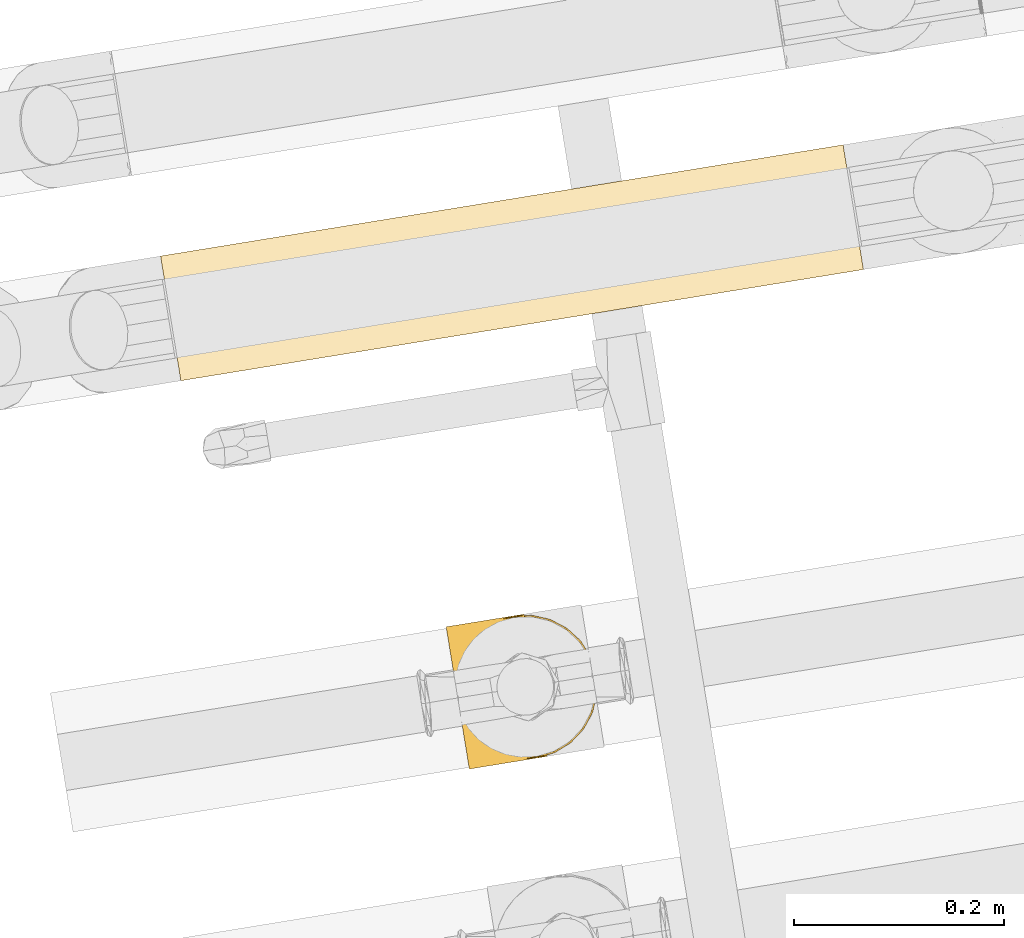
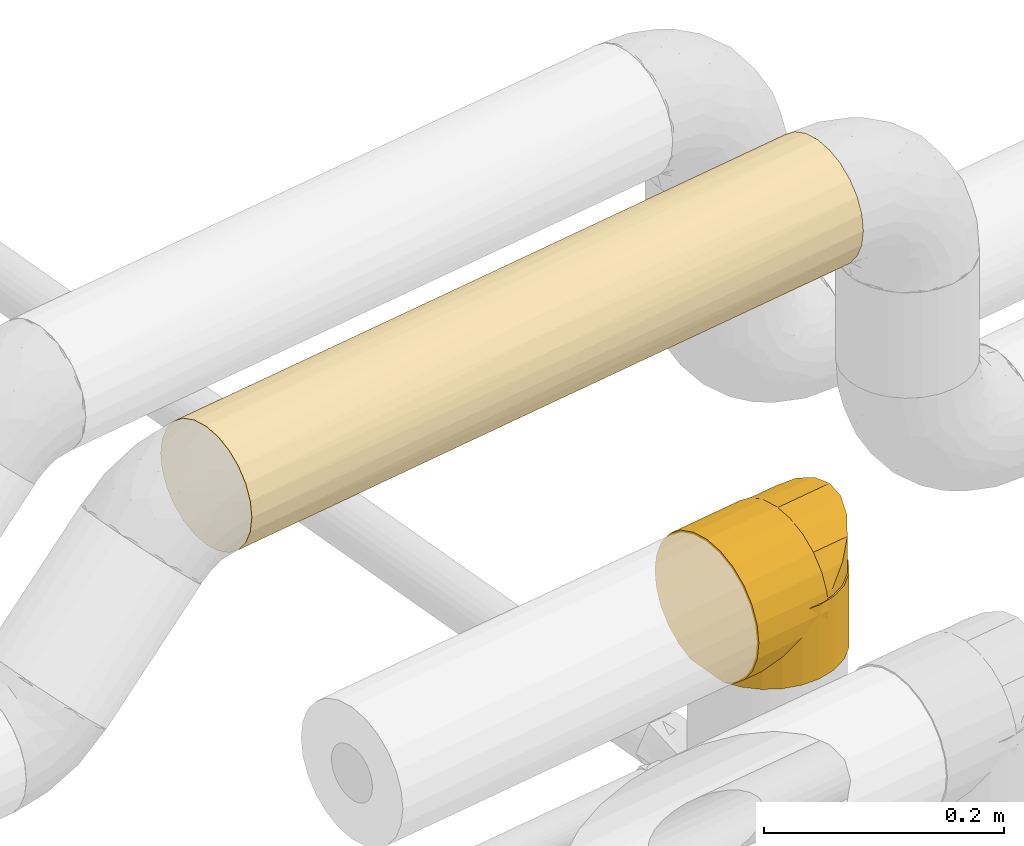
# One storey, part 8 of 56: 2 coverings.
"""IFC2X3 building model written with IfcOpenShell, lengths in millimetres."""

from ifc_helpers import new_model, entity, si_unit, converted_unit, derived_unit, direction, frame, origin, origin_with_axes, place, context, subcontext, project, spatial, faceted_brep, material, type_object, element, save


model = new_model("IFC2X3")

# Units and contexts
model_context = context("Model", 3, precision=0.01, world=origin(), true_north=direction((6.12323399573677e-17, 1.0)))
plan_context = context("Plan", 3, precision=1e-05, world=origin_with_axes())
body_context = subcontext(model_context, "Body", "Model", "MODEL_VIEW")
ifc_project = project(units=[converted_unit("PLANEANGLEUNIT", "DEGREE", entity("IfcPositiveLengthMeasure", 0.0174532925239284), si_unit("PLANEANGLEUNIT", "RADIAN"), dimensions=[0, 0, 0, 0, 0, 0, 0]), si_unit("AREAUNIT", "SQUARE_METRE"), si_unit("LENGTHUNIT", "METRE", prefix="MILLI"), si_unit("MASSUNIT", "GRAM", prefix="KILO"), si_unit("POWERUNIT", "WATT"), si_unit("PRESSUREUNIT", "PASCAL", prefix="KILO"), si_unit("FORCEUNIT", "NEWTON", prefix="KILO"), si_unit("ELECTRICVOLTAGEUNIT", "VOLT"), si_unit("ELECTRICCURRENTUNIT", "AMPERE"), si_unit("THERMODYNAMICTEMPERATUREUNIT", "DEGREE_CELSIUS"), si_unit("TIMEUNIT", "SECOND"), si_unit("VOLUMEUNIT", "CUBIC_METRE"), derived_unit("LINEARVELOCITYUNIT", [(si_unit("LENGTHUNIT", "METRE"), 1), (si_unit("TIMEUNIT", "SECOND"), -1)]), derived_unit("VOLUMETRICFLOWRATEUNIT", [(si_unit("VOLUMEUNIT", "CUBIC_METRE"), 1), (si_unit("TIMEUNIT", "SECOND"), -1)]), derived_unit("THERMALTRANSMITTANCEUNIT", [(si_unit("POWERUNIT", "WATT"), 1), (si_unit("THERMODYNAMICTEMPERATUREUNIT", "KELVIN"), -1), (si_unit("AREAUNIT", "SQUARE_METRE"), -1)]), derived_unit("SOUNDPRESSUREUNIT", [(si_unit("PRESSUREUNIT", "PASCAL"), 1)])], contexts=[model_context, plan_context])

# Site, building, storey
site_placement = place(None, frame((-3.09682673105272e-06, 1.93776733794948e-05, 0.0), z_axis=(0.0, 0.0, 1.0), x_axis=(-0.160806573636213, 0.986985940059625, 0.0)))
site = spatial("IfcSite", under=ifc_project, at=site_placement, Name="Default", CompositionType="ELEMENT")
building_placement = place(site_placement, frame((0.0, 0.0, 0.0), z_axis=(0.0, 0.0, 1.0), x_axis=(1.0, -2.77555756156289e-17, 0.0)))
building = spatial("IfcBuilding", under=site, at=building_placement, Name="Bygning (endres i Project Information)", CompositionType="ELEMENT")
storey_placement = place(building_placement, frame((0.0, 0.0, 51360.0000000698), z_axis=(0.0, 0.0, 1.0), x_axis=(1.0, -2.77555756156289e-17, 0.0)))
storey = spatial("IfcBuildingStorey", under=building, at=storey_placement, Name="H01-Nivå D+0,36", CompositionType="ELEMENT", Elevation=51360.0000000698)

# Coverings
ifc_material_1 = material(Name="3700.001 Retur")
covering_type_1 = type_object("IfcCoveringType", Name="Pipe Insulation:GLAVA avløpsisol. slange økende 19mm (15,5-25,0)", PredefinedType="INSULATION")
covering_1_placement = place(storey_placement, frame((1011626.7223714, -395574.315734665, 3538.35546539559), z_axis=(0.0, 0.0, 1.0), x_axis=(1.0, -2.77555756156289e-17, 0.0)))
element("IfcCovering", 1, at=covering_1_placement, inside=storey, type_object=covering_type_1, material=ifc_material_1, Name="Pipe Insulation:GLAVA avløpsisol. slange økende 19mm (15,5-25,0)", ObjectType="Pipe Insulation:GLAVA avløpsisol. slange økende 19mm (15,5-25,0)", PredefinedType="INSULATION", context=body_context, shape_type="Brep", body=[
    faceted_brep([(46.103188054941, 0.0, 3.64142634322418), (61.6452715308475, 0.0, 1.59527223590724), (77.1873550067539, 0.0, 3.64142634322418), (91.6702711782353, 0.0, 9.64044664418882), (104.107033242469, 0.0, 19.1835098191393), (113.650096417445, 0.0, 31.6202718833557), (119.649116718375, 0.0, 46.103188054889), (121.695270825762, 0.0, 61.6452715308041), (119.649116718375, 0.0, 77.1873550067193), (113.650096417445, 0.0, 91.6702711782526), (104.107033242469, 0.0, 104.107033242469), (91.6702711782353, 0.0, 113.650096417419), (77.1873550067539, 0.0, 119.649116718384), (61.6452715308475, 0.0, 121.695270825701), (46.103188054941, 0.0, 119.649116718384), (31.6202718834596, 0.0, 113.650096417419), (19.1835098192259, 0.0, 104.107033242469), (9.64044664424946, 0.0, 91.6702711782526), (3.64142634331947, 0.0, 77.1873550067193), (1.59527223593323, 0.0, 61.6452715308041), (3.64142634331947, 0.0, 46.103188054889), (9.64044664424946, 0.0, 31.6202718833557), (19.1835098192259, 0.0, 19.1835098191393), (31.6202718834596, 0.0, 9.64044664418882), (31.6202718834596, 657.356818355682, 9.64044664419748), (19.1835098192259, 657.356818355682, 19.183509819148), (9.64044664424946, 657.356818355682, 31.6202718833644), (3.64142634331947, 657.356818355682, 46.1031880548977), (1.59527223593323, 657.356818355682, 61.6452715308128), (3.64142634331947, 657.356818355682, 77.1873550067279), (9.64044664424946, 657.356818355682, 91.6702711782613), (19.1835098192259, 657.356818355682, 104.107033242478), (31.6202718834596, 657.356818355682, 113.650096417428), (46.103188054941, 657.356818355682, 119.649116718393), (61.6452715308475, 657.356818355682, 121.69527082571), (77.1873550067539, 657.356818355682, 119.649116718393), (91.6702711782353, 657.356818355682, 113.650096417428), (104.107033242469, 657.356818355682, 104.107033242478), (113.650096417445, 657.356818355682, 91.6702711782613), (119.649116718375, 657.356818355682, 77.1873550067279), (121.695270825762, 657.356818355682, 61.6452715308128), (119.649116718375, 657.356818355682, 46.1031880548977), (113.650096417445, 657.356818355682, 31.6202718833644), (104.107033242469, 657.356818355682, 19.183509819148), (91.6702711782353, 657.356818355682, 9.64044664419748), (77.1873550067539, 657.356818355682, 3.64142634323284), (61.6452715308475, 657.356818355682, 1.5952722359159), (46.103188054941, 657.356818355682, 3.64142634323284), (14.004404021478, 328.678408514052, 25.08914812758), (6.16630635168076, 328.678411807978, 38.6651314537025), (50.128920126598, 299.904192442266, 2.70991655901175), (61.6452715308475, 386.777987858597, 1.59527223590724), (61.6452715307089, 270.579537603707, 1.59527223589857), (2.7099166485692, 299.904202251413, 50.1289196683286), (1.59527223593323, 386.777875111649, 61.6452715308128), (25.0891481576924, 328.678408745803, 14.0044039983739), (38.6651317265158, 328.678409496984, 6.16630623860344), (84.6254113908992, 328.678409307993, 6.1663062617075), (73.161622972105, 357.452625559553, 2.70991656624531), (120.580626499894, 299.904192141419, 50.1289201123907), (117.12423680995, 328.678409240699, 38.6651316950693), (98.2013949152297, 328.678409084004, 14.0044040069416), (109.28613905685, 328.678409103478, 25.0891481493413), (121.695270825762, 386.777884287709, 61.6452715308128), (121.695270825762, 270.578934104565, 61.6452715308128), (117.124236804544, 328.67840921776, 84.625411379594), (120.58062649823, 357.452626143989, 73.1616229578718), (73.1616229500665, 299.904191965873, 120.580626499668), (84.625411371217, 328.678409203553, 117.124236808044), (109.286139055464, 328.678409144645, 98.2013949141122), (98.201394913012, 328.67840914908, 109.286139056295), (61.6452715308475, 386.777884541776, 121.695270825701), (61.6452715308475, 270.578933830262, 121.695270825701), (38.665131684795, 328.67840919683, 117.124236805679), (50.128920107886, 357.452626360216, 120.580626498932), (2.70991656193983, 299.904191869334, 73.1616229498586), (6.16630625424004, 328.678409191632, 84.6254113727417), (25.0891481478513, 328.678409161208, 109.286139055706), (14.0044040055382, 328.678409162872, 98.2013949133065)], [[[0, 1, 2, 3, 4, 5, 6, 7, 8, 9, 10, 11, 12, 13, 14, 15, 16, 17, 18, 19, 20, 21, 22, 23]], [[24, 25, 26, 27, 28, 29, 30, 31, 32, 33, 34, 35, 36, 37, 38, 39, 40, 41, 42, 43, 44, 45, 46, 47]], [[48, 49, 26]], [[50, 46, 51, 52, 1]], [[27, 26, 49]], [[27, 49, 53]], [[49, 20, 53]], [[49, 48, 21]], [[25, 48, 26]], [[54, 28, 53, 19]], [[22, 21, 48]], [[28, 27, 53]], [[55, 48, 25]], [[20, 49, 21]], [[56, 24, 47]], [[19, 53, 20]], [[24, 55, 25]], [[1, 0, 50]], [[55, 23, 22]], [[56, 55, 24]], [[50, 0, 56]], [[56, 23, 55]], [[48, 55, 22]], [[23, 56, 0]], [[47, 50, 56]], [[46, 50, 47]], [[57, 58, 45]], [[41, 59, 60]], [[58, 1, 52, 51, 46]], [[57, 45, 44]], [[58, 46, 45]], [[2, 57, 3]], [[1, 58, 2]], [[61, 4, 3]], [[61, 57, 44]], [[62, 61, 43]], [[59, 40, 63, 64, 7]], [[60, 42, 41]], [[59, 6, 60]], [[7, 6, 59]], [[62, 5, 4]], [[60, 62, 42]], [[40, 59, 41]], [[60, 5, 62]], [[61, 62, 4]], [[43, 61, 44]], [[5, 60, 6]], [[42, 62, 43]], [[2, 58, 57]], [[57, 61, 3]], [[65, 66, 39]], [[35, 67, 68]], [[66, 7, 64, 63, 40]], [[65, 39, 38]], [[66, 40, 39]], [[8, 65, 9]], [[7, 66, 8]], [[69, 10, 9]], [[69, 65, 38]], [[70, 69, 37]], [[67, 34, 71, 72, 13]], [[68, 36, 35]], [[67, 12, 68]], [[13, 12, 67]], [[70, 11, 10]], [[68, 70, 36]], [[34, 67, 35]], [[68, 11, 70]], [[69, 70, 10]], [[37, 69, 38]], [[11, 68, 12]], [[36, 70, 37]], [[8, 66, 65]], [[65, 69, 9]], [[73, 74, 33]], [[29, 75, 76]], [[74, 13, 72, 71, 34]], [[73, 33, 32]], [[74, 34, 33]], [[14, 73, 15]], [[13, 74, 14]], [[77, 16, 15]], [[77, 73, 32]], [[78, 77, 31]], [[19, 75, 28, 54]], [[76, 30, 29]], [[75, 18, 76]], [[19, 18, 75]], [[78, 17, 16]], [[76, 78, 30]], [[28, 75, 29]], [[76, 17, 78]], [[77, 78, 16]], [[31, 77, 32]], [[17, 76, 18]], [[30, 78, 31]], [[14, 74, 73]], [[73, 77, 15]]]),
])
ifc_material_2 = material(Name="3200.002 Retur")
covering_type_2 = type_object("IfcCoveringType", Name="Pipe Insulation:GLAVA Rørskål ClimPipe Alu2, isol.kl.4, 45°C", PredefinedType="INSULATION")
covering_2_placement = place(storey_placement, frame((1011218.30953621, -395263.320539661, 3533.40472776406), z_axis=(0.0, 0.0, 1.0), x_axis=(1.0, -2.77555756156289e-17, 0.0)))
element("IfcCovering", 2, at=covering_2_placement, inside=storey, type_object=covering_type_2, material=ifc_material_2, Name="Pipe Insulation:GLAVA Rørskål ClimPipe Alu2, isol.kl.4, 45°C", ObjectType="Pipe Insulation:GLAVA Rørskål ClimPipe Alu2, isol.kl.4, 45°C", PredefinedType="INSULATION", context=body_context, shape_type="Brep", body=[
    faceted_brep([(48.4793059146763, 135.095272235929, 1.5952722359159), (48.4793059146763, 135.095272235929, 76.5952722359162), (91.7112385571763, 135.095272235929, 76.5952722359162), (91.7112385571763, 135.095272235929, 1.5952722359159), (136.465971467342, 87.0416666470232, 76.5952722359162), (130.211561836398, 102.932472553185, 76.5952722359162), (120.221067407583, 116.782044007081, 76.5952722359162), (107.116057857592, 127.72956265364, 76.5952722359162), (33.074486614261, 127.72956265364, 76.5952722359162), (19.9694770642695, 116.782044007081, 76.5952722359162), (9.9789826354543, 102.932472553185, 76.5952722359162), (3.7245730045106, 87.0416666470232, 76.5952722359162), (1.59527223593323, 70.0952722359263, 76.5952722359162), (3.92935313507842, 52.366167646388, 76.5952722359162), (10.7725320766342, 35.8452722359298, 76.5952722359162), (21.658457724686, 21.6584577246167, 76.5952722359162), (35.8452722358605, 10.7725320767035, 76.5952722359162), (52.3661676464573, 3.92935313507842, 76.5952722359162), (70.0952722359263, 1.59527223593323, 76.5952722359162), (87.8243768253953, 3.92935313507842, 76.5952722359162), (104.345272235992, 10.7725320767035, 76.5952722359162), (118.532086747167, 21.6584577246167, 76.5952722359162), (129.418012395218, 35.8452722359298, 76.5952722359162), (136.261191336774, 52.366167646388, 76.5952722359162), (138.595272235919, 70.0952722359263, 76.5952722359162), (33.074486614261, 127.72956265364, 1.5952722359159), (19.9694770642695, 116.782044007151, 1.5952722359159), (9.9789826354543, 102.932472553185, 1.5952722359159), (3.7245730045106, 87.0416666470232, 1.5952722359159), (1.59527223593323, 70.0952722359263, 1.5952722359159), (3.92935313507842, 52.366167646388, 1.5952722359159), (10.7725320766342, 35.8452722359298, 1.5952722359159), (21.658457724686, 21.6584577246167, 1.5952722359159), (35.8452722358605, 10.7725320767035, 1.5952722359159), (52.3661676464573, 3.92935313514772, 1.5952722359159), (70.0952722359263, 1.59527223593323, 1.5952722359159), (87.8243768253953, 3.92935313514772, 1.5952722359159), (104.345272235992, 10.7725320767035, 1.5952722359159), (118.532086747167, 21.6584577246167, 1.5952722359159), (129.418012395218, 35.8452722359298, 1.5952722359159), (136.261191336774, 52.366167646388, 1.5952722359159), (138.595272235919, 70.0952722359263, 1.5952722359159), (136.465971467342, 87.0416666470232, 1.5952722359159), (130.211561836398, 102.932472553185, 1.5952722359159), (120.221067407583, 116.782044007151, 1.5952722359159), (107.116057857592, 127.72956265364, 1.5952722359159)], [[[0, 1, 2, 3]], [[4, 5, 6, 7, 2, 1, 8, 9, 10, 11, 12, 13, 14, 15, 16, 17, 18, 19, 20, 21, 22, 23, 24]], [[25, 26, 9, 8]], [[0, 25, 8, 1]], [[26, 27, 10, 9]], [[10, 27, 28, 11]], [[11, 28, 29, 12]], [[13, 30, 31, 14]], [[14, 31, 32, 15]], [[12, 29, 30, 13]], [[16, 33, 34, 17]], [[17, 34, 35, 18]], [[15, 32, 33, 16]], [[19, 36, 37, 20]], [[20, 37, 38, 21]], [[35, 36, 19, 18]], [[22, 39, 40, 23]], [[23, 40, 41, 24]], [[21, 38, 39, 22]], [[24, 41, 42, 4]], [[4, 42, 43, 5]], [[43, 44, 6, 5]], [[6, 44, 45, 7]], [[7, 45, 3, 2]], [[28, 27, 26, 25, 0, 3, 45, 44, 43, 42, 41, 40, 39, 38, 37, 36, 35, 34, 33, 32, 31, 30, 29]]]),
    faceted_brep([(91.7112385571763, 60.0952722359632, 1.5952722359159), (48.4793059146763, 60.0952722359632, 1.5952722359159), (48.4793059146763, 135.095272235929, 1.5952722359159), (91.7112385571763, 135.095272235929, 1.5952722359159), (136.261191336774, 60.0952722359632, 84.3243768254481), (129.418012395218, 60.0952722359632, 100.845272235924), (118.532086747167, 60.0952722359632, 115.032086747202), (104.345272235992, 60.0952722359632, 125.918012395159), (87.8243768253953, 60.0952722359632, 132.761191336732), (70.0952722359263, 60.0952722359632, 135.095272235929), (52.3661676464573, 60.0952722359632, 132.761191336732), (35.8452722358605, 60.0952722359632, 125.918012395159), (21.658457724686, 60.0952722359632, 115.032086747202), (10.7725320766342, 60.0952722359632, 100.845272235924), (3.92935313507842, 60.0952722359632, 84.3243768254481), (1.59527223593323, 60.0952722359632, 66.5952722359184), (3.7245730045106, 60.0952722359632, 49.6488778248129), (9.9789826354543, 60.0952722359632, 33.7580719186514), (19.9694770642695, 60.0952722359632, 19.9085004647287), (33.074486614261, 60.0952722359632, 8.96098181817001), (107.116057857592, 60.0952722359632, 8.96098181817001), (120.221067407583, 60.0952722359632, 19.9085004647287), (130.211561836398, 60.0952722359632, 33.7580719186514), (136.465971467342, 60.0952722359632, 49.6488778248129), (138.595272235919, 60.0952722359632, 66.5952722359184), (70.0952722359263, 135.095272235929, 135.095272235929), (52.3661676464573, 135.095272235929, 132.761191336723), (35.8452722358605, 135.095272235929, 125.918012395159), (21.658457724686, 135.095272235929, 115.032086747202), (10.7725320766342, 135.095272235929, 100.845272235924), (3.92935313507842, 135.095272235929, 84.3243768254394), (1.59527223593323, 135.095272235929, 66.5952722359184), (3.7245730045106, 135.095272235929, 49.6488778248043), (9.9789826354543, 135.095272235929, 33.7580719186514), (19.9694770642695, 135.095272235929, 19.9085004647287), (33.074486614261, 135.095272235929, 8.96098181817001), (107.116057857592, 135.095272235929, 8.96098181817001), (120.221067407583, 135.095272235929, 19.9085004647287), (130.211561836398, 135.095272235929, 33.7580719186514), (136.465971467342, 135.095272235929, 49.6488778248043), (138.595272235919, 135.095272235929, 66.5952722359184), (136.261191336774, 135.095272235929, 84.3243768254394), (129.418012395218, 135.095272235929, 100.845272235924), (118.532086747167, 135.095272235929, 115.032086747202), (104.345272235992, 135.095272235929, 125.918012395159), (87.8243768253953, 135.095272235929, 132.761191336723)], [[[0, 1, 2, 3]], [[4, 5, 6, 7, 8, 9, 10, 11, 12, 13, 14, 15, 16, 17, 18, 19, 1, 0, 20, 21, 22, 23, 24]], [[25, 26, 10, 9]], [[12, 11, 27, 28]], [[27, 11, 10, 26]], [[13, 29, 30, 14]], [[14, 30, 31, 15]], [[12, 28, 29, 13]], [[15, 31, 32, 16]], [[16, 32, 33, 17]], [[33, 34, 18, 17]], [[18, 34, 35, 19]], [[19, 35, 2, 1]], [[0, 3, 36, 20]], [[20, 36, 37, 21]], [[37, 38, 22, 21]], [[22, 38, 39, 23]], [[23, 39, 40, 24]], [[4, 41, 42, 5]], [[5, 42, 43, 6]], [[40, 41, 4, 24]], [[7, 44, 45, 8]], [[8, 45, 25, 9]], [[6, 43, 44, 7]], [[2, 35, 34, 33, 32, 31, 30, 29, 28, 27, 26, 25, 45, 44, 43, 42, 41, 40, 39, 38, 37, 36, 3]]]),
    faceted_brep([(17.0805762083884, 135.095272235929, 25.6264791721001), (6.68792000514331, 135.095272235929, 44.9502339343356), (3.09527223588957, 135.095272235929, 66.5952722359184), (5.64530789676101, 135.095272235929, 79.4151672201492), (8.19534355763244, 135.095272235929, 92.2350622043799), (15.4572307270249, 135.095272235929, 103.103244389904), (22.7191178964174, 135.095272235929, 113.971426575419), (33.5873000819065, 135.095272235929, 121.233313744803), (44.4554822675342, 135.095272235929, 128.495200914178), (57.2753772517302, 135.095272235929, 131.045236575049), (70.0952722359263, 135.095272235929, 133.595272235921), (82.9151672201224, 135.095272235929, 131.045236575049), (95.7350622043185, 135.095272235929, 128.495200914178), (106.603244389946, 135.09527223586, 121.233313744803), (117.471426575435, 135.095272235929, 113.971426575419), (124.733313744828, 135.095272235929, 103.103244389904), (131.99520091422, 135.095272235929, 92.2350622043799), (134.545236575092, 135.095272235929, 79.4151672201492), (137.095272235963, 135.095272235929, 66.5952722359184), (133.502624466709, 135.095272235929, 44.9502339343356), (87.3056401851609, 135.095272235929, 1.90061510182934), (87.1490829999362, 135.095272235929, 1.83080768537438), (87.0708044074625, 135.095272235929, 1.79590397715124), (86.9925258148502, 135.095272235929, 1.76100026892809), (53.1980186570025, 135.095272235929, 1.76100026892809), (53.1197400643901, 135.095272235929, 1.79590397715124), (53.0414614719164, 135.095272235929, 1.83080768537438), (52.8849042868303, 135.095272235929, 1.90061510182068), (52.7283471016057, 135.095272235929, 1.97042251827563), (52.5717899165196, 135.095272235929, 2.04022993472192), (52.2586755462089, 135.095272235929, 2.17984476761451), (51.9455611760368, 135.095272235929, 2.31945960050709), (51.6324468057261, 135.095272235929, 2.45907443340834), (51.319332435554, 135.095272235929, 2.59868926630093), (50.6931036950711, 135.095272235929, 2.87791893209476), (50.0668749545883, 135.095272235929, 3.15714859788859), (49.4406462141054, 135.095272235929, 3.43637826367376), (48.814417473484, 135.095272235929, 3.71560792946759), (48.1881887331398, 135.095272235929, 3.99483759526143), (46.9357312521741, 135.095272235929, 4.55329692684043), (45.6832737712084, 135.095272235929, 5.11175625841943), (44.4308162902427, 135.095272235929, 5.67021559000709), (43.1783588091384, 135.095272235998, 6.22867492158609), (40.6734438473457, 135.095272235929, 7.34559358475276), (38.1685288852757, 135.095272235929, 8.46251224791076), (33.158698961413, 135.095272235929, 10.6963495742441), (29.1391682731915, 135.095272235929, 14.4288819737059), (25.1196375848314, 135.095272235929, 18.1614143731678), (123.109968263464, 135.095272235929, 25.6264791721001), (115.070906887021, 135.09527223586, 18.1614143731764), (111.0513761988, 135.095272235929, 14.4288819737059), (107.03184551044, 135.095272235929, 10.6963495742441), (102.022015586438, 135.095272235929, 8.46251224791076), (99.5171006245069, 135.095272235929, 7.34559358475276), (97.0121856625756, 135.095272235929, 6.22867492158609), (95.7597281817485, 135.09527223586, 5.67021559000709), (94.5072707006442, 135.095272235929, 5.11175625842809), (93.2548132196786, 135.095272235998, 4.55329692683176), (92.0023557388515, 135.095272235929, 3.99483759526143), (91.3761269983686, 135.095272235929, 3.71560792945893), (90.7498982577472, 135.095272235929, 3.43637826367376), (90.1236695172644, 135.095272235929, 3.15714859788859), (89.4974407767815, 135.095272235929, 2.8779189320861), (88.8712120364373, 135.095272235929, 2.59868926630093), (88.558097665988, 135.095272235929, 2.45907443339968), (88.2449832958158, 135.095272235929, 2.31945960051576), (87.9318689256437, 135.095272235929, 2.17984476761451), (87.618754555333, 135.095272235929, 2.04022993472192), (87.4361482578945, 5.37824187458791, 1.5952722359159), (70.0952722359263, 3.09527223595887, 1.5952722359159), (52.7543962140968, 5.37824187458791, 1.5952722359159), (36.5952722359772, 12.0715701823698, 1.5952722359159), (22.7191178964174, 22.7191178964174, 1.5952722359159), (12.0715701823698, 36.5952722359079, 1.5952722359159), (5.37824187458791, 52.7543962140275, 1.5952722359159), (3.09527223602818, 70.0952722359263, 1.5952722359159), (4.70003474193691, 84.671379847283, 1.5952722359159), (9.43744874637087, 98.5492429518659, 1.5952722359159), (17.0805762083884, 111.064065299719, 1.5952722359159), (27.2632856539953, 121.616344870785, 1.5952722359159), (39.4977911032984, 129.700592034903, 1.5952722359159), (53.1980186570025, 134.929544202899, 1.5952722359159), (86.9925258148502, 134.929544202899, 1.5952722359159), (100.692753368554, 129.700592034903, 1.5952722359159), (112.927258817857, 121.616344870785, 1.5952722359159), (123.109968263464, 111.064065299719, 1.5952722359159), (130.75309572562, 98.5492429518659, 1.5952722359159), (135.490509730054, 84.671379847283, 1.5952722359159), (137.095272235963, 70.0952722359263, 1.5952722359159), (134.812302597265, 52.7543962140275, 1.5952722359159), (128.118974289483, 36.5952722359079, 1.5952722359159), (117.471426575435, 22.7191178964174, 1.5952722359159), (103.595272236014, 12.0715701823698, 1.5952722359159), (53.1980186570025, 134.929544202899, 1.76100026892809), (86.9925258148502, 134.929544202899, 1.76100026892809), (112.927258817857, 121.616344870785, 15.0741996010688), (123.109968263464, 111.064065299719, 25.6264791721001), (100.692753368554, 129.700592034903, 6.98995243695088), (103.751379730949, 127.679530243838, 9.01101422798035), (106.810006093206, 125.658468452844, 11.0320760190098), (88.7050542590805, 134.275925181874, 2.41461928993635), (89.1331863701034, 134.112520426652, 2.57802404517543), (89.561318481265, 133.949115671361, 2.74142880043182), (90.4175827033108, 133.622306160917, 3.06823831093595), (92.1301111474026, 132.968687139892, 3.72185733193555), (93.8426395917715, 132.315068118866, 4.37547635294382), (95.5551680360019, 131.66144909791, 5.02909537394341), (97.2676964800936, 131.007830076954, 5.68271439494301), (87.0995588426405, 134.888693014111, 1.80185145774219), (87.4206579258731, 134.766139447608, 1.92440502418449), (87.6347239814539, 134.684437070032, 2.00610740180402), (135.490509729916, 84.671379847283, 52.0191646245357), (137.095272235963, 70.0952722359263, 66.5952722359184), (130.753095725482, 98.5492429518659, 38.1413015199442), (134.812302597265, 52.7543962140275, 83.9361482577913), (128.118974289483, 36.5952722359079, 100.095272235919), (117.471426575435, 22.7191178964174, 113.971426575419), (103.595272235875, 12.0715701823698, 124.618974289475), (87.4361482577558, 5.37824187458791, 131.312302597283), (70.0952722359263, 3.09527223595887, 133.595272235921), (52.7543962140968, 5.37824187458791, 131.312302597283), (36.5952722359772, 12.0715701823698, 124.618974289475), (22.7191178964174, 22.7191178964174, 113.971426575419), (12.0715701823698, 36.5952722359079, 100.095272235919), (5.37824187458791, 52.7543962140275, 83.9361482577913), (3.09527223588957, 70.0952722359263, 66.5952722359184), (4.70003474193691, 84.671379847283, 52.0191646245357), (9.43744874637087, 98.5492429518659, 38.1413015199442), (17.0805762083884, 111.064065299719, 25.6264791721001), (39.4977911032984, 129.700592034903, 6.98995243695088), (42.922847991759, 131.007830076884, 5.68271439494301), (44.6353764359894, 131.66144909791, 5.02909537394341), (46.3479048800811, 132.315068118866, 4.37547635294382), (48.0604333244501, 132.968687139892, 3.72185733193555), (48.9166975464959, 133.295496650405, 3.39504782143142), (49.7729617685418, 133.622306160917, 3.06823831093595), (50.6292259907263, 133.949115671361, 2.74142880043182), (51.0573581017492, 134.112520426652, 2.57802404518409), (51.4854902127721, 134.275925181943, 2.41461928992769), (51.9136223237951, 134.439329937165, 2.25121453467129), (52.3417544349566, 134.602734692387, 2.08780977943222), (52.5558204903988, 134.684437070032, 2.00610740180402), (52.7698865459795, 134.766139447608, 1.92440502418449), (27.2632856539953, 121.616344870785, 15.0741996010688), (33.3805383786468, 125.658468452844, 11.0320760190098), (36.4391647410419, 127.679530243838, 9.01101422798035), (91.2738469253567, 133.295496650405, 3.39504782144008), (88.2769221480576, 134.439329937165, 2.25121453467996), (87.4621973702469, 135.095272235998, 1.97042251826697), (87.848790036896, 134.602734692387, 2.08780977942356), (87.2065918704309, 134.847841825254, 1.84270264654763), (87.3136248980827, 134.806990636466, 1.88355383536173), (52.8769195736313, 134.806990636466, 1.88355383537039), (53.0909856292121, 134.888693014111, 1.80185145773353), (52.9839526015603, 134.847841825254, 1.84270264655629)], [[[0, 1, 2, 3, 4, 5, 6, 7, 8, 9, 10, 11, 12, 13, 14, 15, 16, 17, 18, 19, 20, 21, 22, 23, 24, 25, 26, 27, 28, 29, 30, 31, 32, 33, 34, 35, 36, 37, 38, 39, 40, 41, 42, 43, 44, 45, 46, 47]], [[19, 48, 49, 50, 51, 52, 53, 54, 55, 56, 57, 58, 59, 60, 61, 62, 63, 64, 65, 66, 67]], [[68, 69, 70, 71, 72, 73, 74, 75, 76, 77, 78, 79, 80, 81, 82, 83, 84, 85, 86, 87, 88, 89, 90, 91, 92]], [[82, 81, 93, 94]], [[84, 95, 96, 85]], [[84, 83, 97, 98, 99, 95]], [[82, 94, 83]], [[83, 100, 101, 102, 103]], [[83, 104, 105]], [[83, 106, 107]], [[83, 94, 108]], [[83, 109, 110]], [[111, 112, 88, 87]], [[113, 111, 87, 86]], [[96, 113, 86, 85]], [[89, 88, 112, 114]], [[90, 89, 114, 115]], [[115, 116, 91, 90]], [[68, 92, 117, 118]], [[69, 68, 118, 119]], [[116, 117, 92, 91]], [[69, 119, 120, 70]], [[70, 120, 121, 71]], [[71, 121, 122, 72]], [[72, 122, 123, 73]], [[73, 123, 124, 74]], [[125, 75, 74, 124]], [[126, 127, 77, 76]], [[125, 126, 76, 75]], [[77, 127, 128, 78]], [[80, 129, 130, 131, 132, 133, 134, 135, 136, 137, 138, 139, 140, 141, 142]], [[93, 81, 80]], [[79, 143, 144, 145, 129, 80]], [[78, 128, 143, 79]], [[94, 93, 24, 23]], [[106, 55, 107]], [[104, 57, 105]], [[105, 57, 56]], [[51, 99, 98]], [[104, 146, 59]], [[97, 52, 98]], [[96, 95, 49]], [[50, 99, 51]], [[49, 48, 96]], [[95, 50, 49]], [[113, 48, 19]], [[53, 107, 55, 54]], [[51, 98, 52]], [[111, 19, 18]], [[99, 50, 95]], [[111, 113, 19]], [[112, 111, 18]], [[97, 53, 52]], [[106, 105, 56]], [[48, 113, 96]], [[62, 102, 101]], [[107, 53, 97]], [[146, 103, 60]], [[57, 104, 59, 58]], [[66, 65, 64, 147]], [[106, 56, 55]], [[103, 61, 60]], [[102, 61, 103]], [[101, 100, 63]], [[61, 102, 62]], [[146, 60, 59]], [[148, 67, 110]], [[100, 64, 63]], [[147, 64, 100]], [[62, 101, 63]], [[147, 149, 66]], [[150, 21, 20]], [[149, 67, 66]], [[110, 109, 148]], [[67, 149, 110]], [[108, 22, 21]], [[109, 20, 148]], [[20, 109, 151, 150]], [[22, 94, 23]], [[21, 150, 108]], [[94, 22, 108]], [[115, 16, 15]], [[112, 17, 114]], [[16, 115, 114]], [[15, 116, 115]], [[13, 116, 14]], [[17, 16, 114]], [[14, 116, 15]], [[17, 112, 18]], [[116, 13, 117]], [[10, 119, 11]], [[12, 118, 117]], [[119, 118, 11]], [[118, 12, 11]], [[13, 12, 117]], [[119, 9, 120]], [[9, 119, 10]], [[7, 6, 122]], [[7, 122, 121]], [[121, 8, 7]], [[120, 8, 121]], [[5, 4, 123]], [[5, 122, 6]], [[122, 5, 123]], [[9, 8, 120]], [[2, 125, 3]], [[4, 124, 123]], [[125, 124, 3]], [[124, 4, 3]], [[126, 2, 1]], [[129, 44, 43]], [[0, 127, 1]], [[128, 127, 0]], [[143, 47, 46]], [[126, 125, 2]], [[127, 126, 1]], [[45, 145, 144]], [[43, 42, 41, 130]], [[136, 135, 35]], [[46, 45, 144]], [[39, 38, 37, 133]], [[132, 39, 133]], [[145, 45, 44]], [[143, 46, 144]], [[43, 130, 129]], [[128, 47, 143]], [[131, 41, 40]], [[47, 128, 0]], [[132, 40, 39]], [[44, 129, 145]], [[40, 132, 131]], [[139, 138, 32]], [[134, 37, 36]], [[35, 34, 136]], [[130, 41, 131]], [[135, 36, 35]], [[36, 135, 134]], [[29, 141, 140]], [[137, 34, 33]], [[32, 31, 30, 139]], [[34, 137, 136]], [[133, 37, 134]], [[138, 33, 32]], [[27, 152, 142]], [[33, 138, 137]], [[140, 30, 29]], [[139, 30, 140]], [[26, 153, 154]], [[28, 141, 29]], [[142, 28, 27]], [[141, 28, 142]], [[25, 93, 153]], [[27, 154, 152]], [[154, 27, 26]], [[93, 25, 24]], [[153, 26, 25]], [[19, 67, 148]], [[19, 148, 20]], [[83, 108, 150]], [[83, 151, 109]], [[83, 110, 149]], [[83, 150, 151]], [[83, 147, 100]], [[83, 149, 147]], [[83, 103, 146, 104]], [[83, 107, 97]], [[83, 105, 106]], [[80, 142, 152]], [[80, 154, 153]], [[80, 152, 154]], [[80, 153, 93]]]),
])

save(model, "model.ifc")
